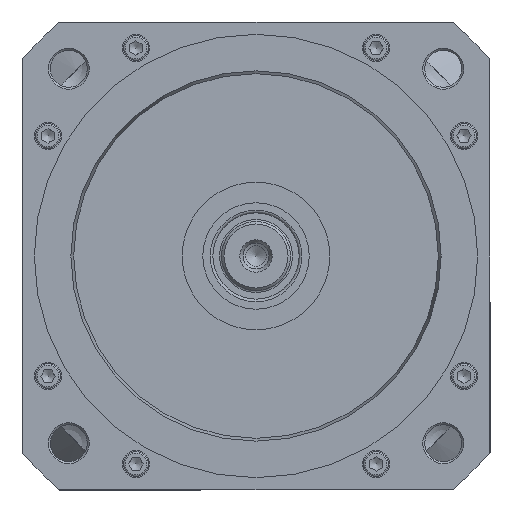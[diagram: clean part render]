
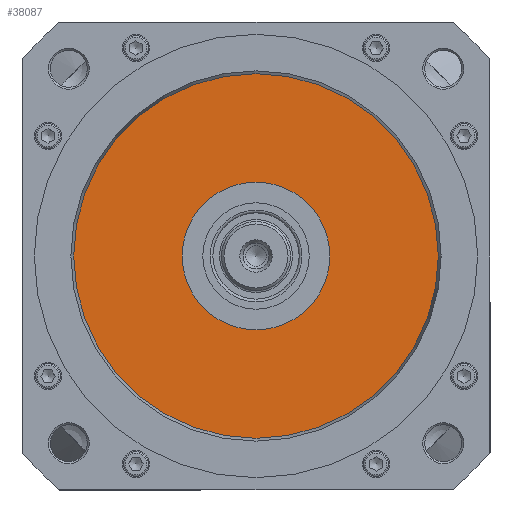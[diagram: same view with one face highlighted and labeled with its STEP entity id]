
A CAD part, left-side view. The second image highlights one B-rep face of the part: STEP entity #38087.
In plain terms, the highlighted planar face has unit normal (-1, 0, 0).
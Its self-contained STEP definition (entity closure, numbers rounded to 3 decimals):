
#1387=FACE_BOUND('',#4738,.T.);
#1747=PLANE('',#40714);
#2573=FACE_OUTER_BOUND('',#4737,.T.);
#4737=EDGE_LOOP('',(#24381,#24382));
#4738=EDGE_LOOP('',(#24383,#24384));
#7335=CIRCLE('',#40711,74.);
#7337=CIRCLE('',#40713,74.);
#7338=CIRCLE('',#40715,30.);
#7339=CIRCLE('',#40716,30.);
#14273=VERTEX_POINT('',#58173);
#14274=VERTEX_POINT('',#58174);
#14276=VERTEX_POINT('',#58181);
#14277=VERTEX_POINT('',#58182);
#18205=EDGE_CURVE('',#14273,#14274,#7335,.T.);
#18208=EDGE_CURVE('',#14274,#14273,#7337,.T.);
#18209=EDGE_CURVE('',#14276,#14277,#7338,.T.);
#18210=EDGE_CURVE('',#14277,#14276,#7339,.T.);
#24381=ORIENTED_EDGE('',*,*,#18205,.F.);
#24382=ORIENTED_EDGE('',*,*,#18208,.F.);
#24383=ORIENTED_EDGE('',*,*,#18209,.T.);
#24384=ORIENTED_EDGE('',*,*,#18210,.T.);
#38087=ADVANCED_FACE('',(#2573,#1387),#1747,.T.);
#40711=AXIS2_PLACEMENT_3D('',#58175,#46239,#46240);
#40713=AXIS2_PLACEMENT_3D('',#58179,#46244,#46245);
#40714=AXIS2_PLACEMENT_3D('',#58180,#46246,#46247);
#40715=AXIS2_PLACEMENT_3D('',#58183,#46248,#46249);
#40716=AXIS2_PLACEMENT_3D('',#58184,#46250,#46251);
#46239=DIRECTION('center_axis',(1.,0.,0.));
#46240=DIRECTION('ref_axis',(0.,1.,0.));
#46244=DIRECTION('center_axis',(1.,0.,0.));
#46245=DIRECTION('ref_axis',(0.,1.,0.));
#46246=DIRECTION('center_axis',(-1.,0.,0.));
#46247=DIRECTION('ref_axis',(0.,-1.,0.));
#46248=DIRECTION('center_axis',(1.,0.,0.));
#46249=DIRECTION('ref_axis',(0.,1.,0.));
#46250=DIRECTION('center_axis',(1.,0.,0.));
#46251=DIRECTION('ref_axis',(0.,1.,0.));
#58173=CARTESIAN_POINT('',(-124.95,0.,74.));
#58174=CARTESIAN_POINT('',(-124.95,0.,-74.));
#58175=CARTESIAN_POINT('Origin',(-124.95,0.,0.));
#58179=CARTESIAN_POINT('Origin',(-124.95,0.,0.));
#58180=CARTESIAN_POINT('Origin',(-124.95,0.,74.));
#58181=CARTESIAN_POINT('',(-124.95,0.,30.));
#58182=CARTESIAN_POINT('',(-124.95,0.,-30.));
#58183=CARTESIAN_POINT('Origin',(-124.95,0.,0.));
#58184=CARTESIAN_POINT('Origin',(-124.95,0.,0.));
